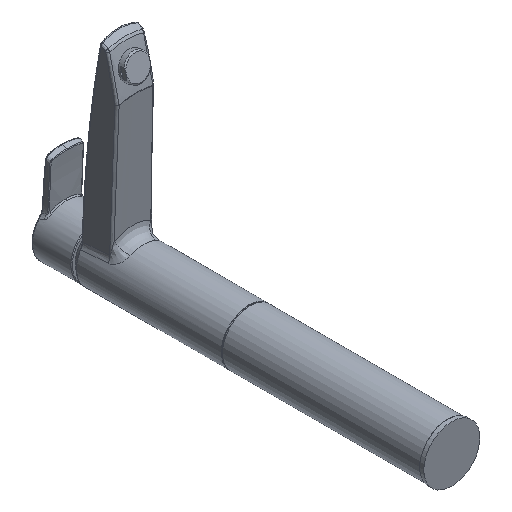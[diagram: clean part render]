
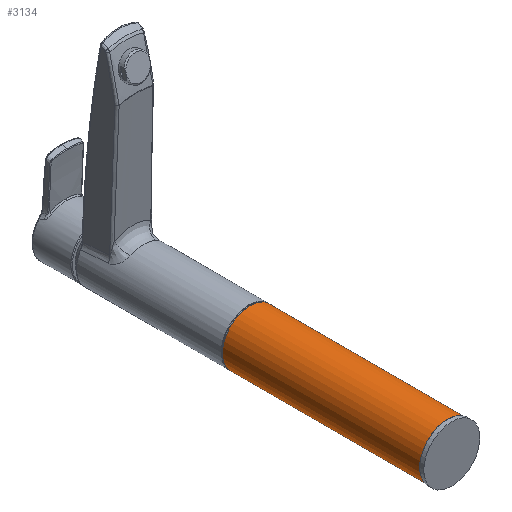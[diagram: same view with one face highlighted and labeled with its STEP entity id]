
A CAD part, isometric view. The second image highlights one B-rep face of the part: STEP entity #3134.
In plain terms, the highlighted cylindrical face has radius 25 mm (diameter 50 mm), a full revolution.
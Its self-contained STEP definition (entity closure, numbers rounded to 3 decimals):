
#239 = VERTEX_POINT ( 'NONE', #6608 ) ;
#1003 = CIRCLE ( 'NONE', #5405, 25. ) ;
#1194 = ORIENTED_EDGE ( 'NONE', *, *, #8044, .T. ) ;
#1729 = EDGE_CURVE ( 'NONE', #239, #239, #8617, .T. ) ;
#2122 = EDGE_LOOP ( 'NONE', ( #1194 ) ) ;
#2447 = EDGE_LOOP ( 'NONE', ( #3815 ) ) ;
#3134 = ADVANCED_FACE ( 'NONE', ( #3604, #3215 ), #3190, .T. ) ;
#3190 = CYLINDRICAL_SURFACE ( 'NONE', #6017, 25. ) ;
#3206 = AXIS2_PLACEMENT_3D ( 'NONE', #5873, #5869, #5859 ) ;
#3215 = FACE_OUTER_BOUND ( 'NONE', #2447, .T. ) ;
#3604 = FACE_OUTER_BOUND ( 'NONE', #2122, .T. ) ;
#3815 = ORIENTED_EDGE ( 'NONE', *, *, #1729, .T. ) ;
#4375 = DIRECTION ( 'NONE',  ( -1., 0., 0. ) ) ;
#4967 = DIRECTION ( 'NONE',  ( 0., 1., 0. ) ) ;
#5405 = AXIS2_PLACEMENT_3D ( 'NONE', #9618, #4967, #10348 ) ;
#5724 = CARTESIAN_POINT ( 'NONE',  ( 25., 4.2, 0. ) ) ;
#5859 = DIRECTION ( 'NONE',  ( 1., 0., 0. ) ) ;
#5869 = DIRECTION ( 'NONE',  ( 0., -1., 0. ) ) ;
#5873 = CARTESIAN_POINT ( 'NONE',  ( 0., 183.8, 0. ) ) ;
#6017 = AXIS2_PLACEMENT_3D ( 'NONE', #9813, #6025, #4375 ) ;
#6025 = DIRECTION ( 'NONE',  ( 0., -1., 0. ) ) ;
#6608 = CARTESIAN_POINT ( 'NONE',  ( 25., 183.8, 0. ) ) ;
#8044 = EDGE_CURVE ( 'NONE', #10321, #10321, #1003, .T. ) ;
#8617 = CIRCLE ( 'NONE', #3206, 25. ) ;
#9618 = CARTESIAN_POINT ( 'NONE',  ( 0., 4.2, 0. ) ) ;
#9813 = CARTESIAN_POINT ( 'NONE',  ( 0., 184., 0. ) ) ;
#10321 = VERTEX_POINT ( 'NONE', #5724 ) ;
#10348 = DIRECTION ( 'NONE',  ( 1., 0., 0. ) ) ;
